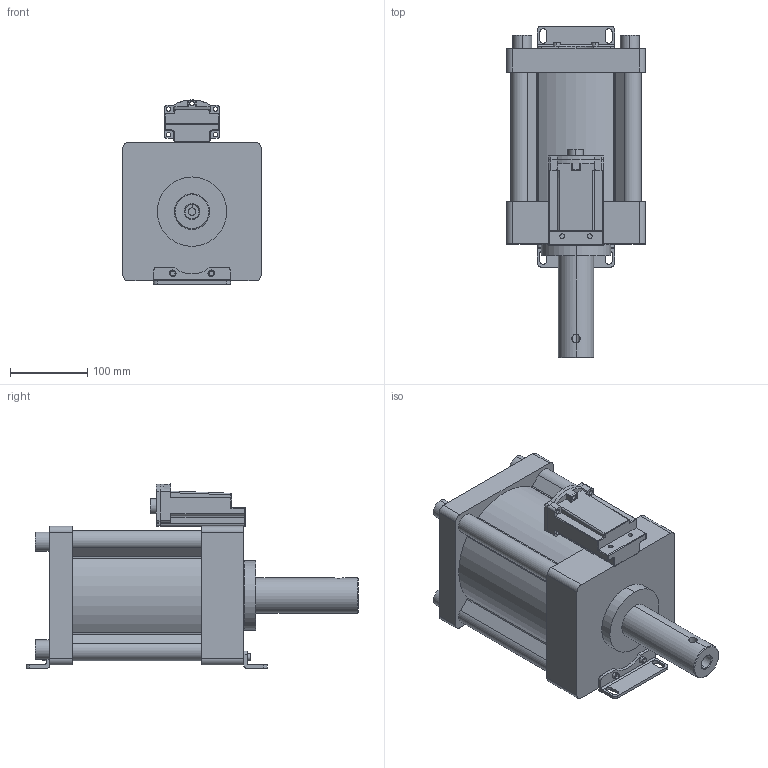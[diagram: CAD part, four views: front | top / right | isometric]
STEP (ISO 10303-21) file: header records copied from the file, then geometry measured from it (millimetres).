
FILE_DESCRIPTION (( 'STEP AP203' ), '1' );
FILE_NAME ('MHA1628N70.STEP', '2016-03-19T03:47:36', ( 'WIN' ), ( '' ), 'SwSTEP 2.0', 'SolidWorks 2014', '' );
FILE_SCHEMA (( 'CONFIG_CONTROL_DESIGN' ));
Length unit declared in the file: millimetre
Products named in the file (1): MHA1628N70
Bounding box: 180 x 431 x 238.97 mm (x, y, z)
Surface area: 542039.7 mm2 (no closed solid volume)
Topology: 0 solids, 6 shells, 412 faces, 1045 edges, 668 vertices
Faces by surface type: cylinder 192, plane 185, cone 20, sphere 8, torus 5, bspline 2
Entity records: 13012 total; most frequent: CARTESIAN_POINT 2749, DIRECTION 2208, ORIENTED_EDGE 2043, EDGE_CURVE 1033, AXIS2_PLACEMENT_3D 797, VERTEX_POINT 668, LINE 614, VECTOR 614
